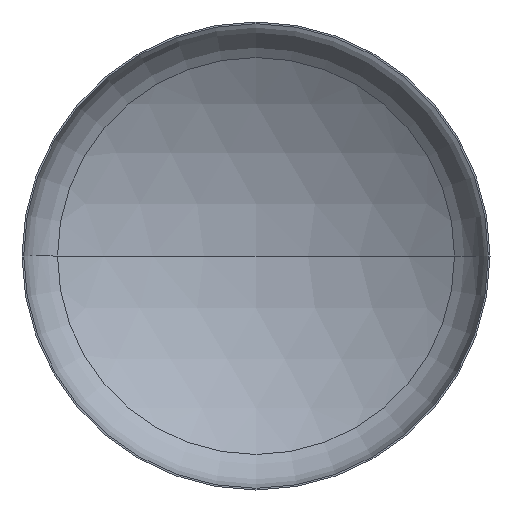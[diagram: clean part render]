
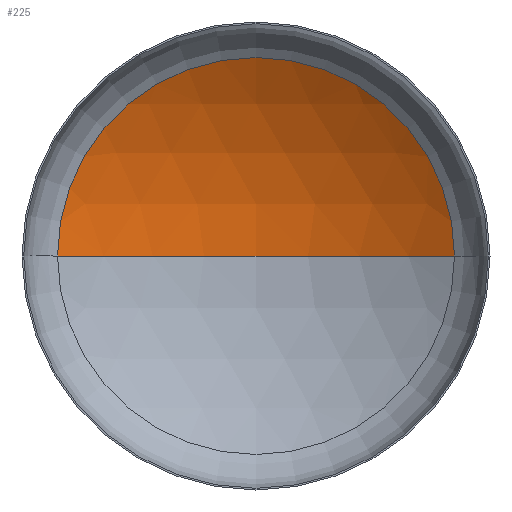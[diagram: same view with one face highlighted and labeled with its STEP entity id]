
A CAD part, front view. The second image highlights one B-rep face of the part: STEP entity #225.
In plain terms, the highlighted spherical face has radius 6400 mm.
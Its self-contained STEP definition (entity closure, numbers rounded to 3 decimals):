
#2 = DIRECTION ( 'NONE',  ( 0., 0., -1. ) ) ;
#7 = ORIENTED_EDGE ( 'NONE', *, *, #213, .F. ) ;
#9 = DIRECTION ( 'NONE',  ( -1., 0., 0. ) ) ;
#44 = DIRECTION ( 'NONE',  ( 1., 0., 0. ) ) ;
#57 = VERTEX_POINT ( 'NONE', #285 ) ;
#65 = VERTEX_POINT ( 'NONE', #239 ) ;
#83 = ORIENTED_EDGE ( 'NONE', *, *, #206, .T. ) ;
#87 = EDGE_LOOP ( 'NONE', ( #7, #96, #83 ) ) ;
#96 = ORIENTED_EDGE ( 'NONE', *, *, #209, .T. ) ;
#97 = VERTEX_POINT ( 'NONE', #210 ) ;
#115 = FACE_OUTER_BOUND ( 'NONE', #87, .T. ) ;
#123 = AXIS2_PLACEMENT_3D ( 'NONE', #183, #2, #177 ) ;
#134 = AXIS2_PLACEMENT_3D ( 'NONE', #381, #341, #152 ) ;
#138 = AXIS2_PLACEMENT_3D ( 'NONE', #187, #215, #9 ) ;
#142 = AXIS2_PLACEMENT_3D ( 'NONE', #173, #269, #44 ) ;
#152 = DIRECTION ( 'NONE',  ( 1., 0., 0. ) ) ;
#173 = CARTESIAN_POINT ( 'NONE',  ( 0., 1132.903, 0. ) ) ;
#177 = DIRECTION ( 'NONE',  ( -1., 0., 0. ) ) ;
#183 = CARTESIAN_POINT ( 'NONE',  ( 0., -4293.585, 0. ) ) ;
#187 = CARTESIAN_POINT ( 'NONE',  ( 0., -4293.585, 0. ) ) ;
#200 = CIRCLE ( 'NONE', #134, 6400. ) ;
#206 = EDGE_CURVE ( 'NONE', #57, #97, #391, .T. ) ;
#209 = EDGE_CURVE ( 'NONE', #65, #57, #338, .T. ) ;
#210 = CARTESIAN_POINT ( 'NONE',  ( -3393.114, 1132.903, 0. ) ) ;
#213 = EDGE_CURVE ( 'NONE', #65, #97, #200, .T. ) ;
#215 = DIRECTION ( 'NONE',  ( 0., 0., -1. ) ) ;
#225 = ADVANCED_FACE ( 'NONE', ( #115 ), #385, .F. ) ;
#239 = CARTESIAN_POINT ( 'NONE',  ( 0., 2106.415, 0. ) ) ;
#269 = DIRECTION ( 'NONE',  ( 0., -1., 0. ) ) ;
#285 = CARTESIAN_POINT ( 'NONE',  ( 3393.114, 1132.903, 0. ) ) ;
#338 = CIRCLE ( 'NONE', #138, 6400. ) ;
#341 = DIRECTION ( 'NONE',  ( 0., 0., 1. ) ) ;
#381 = CARTESIAN_POINT ( 'NONE',  ( 0., -4293.585, 0. ) ) ;
#385 = SPHERICAL_SURFACE ( 'NONE', #123, 6400. ) ;
#391 = CIRCLE ( 'NONE', #142, 3393.114 ) ;
